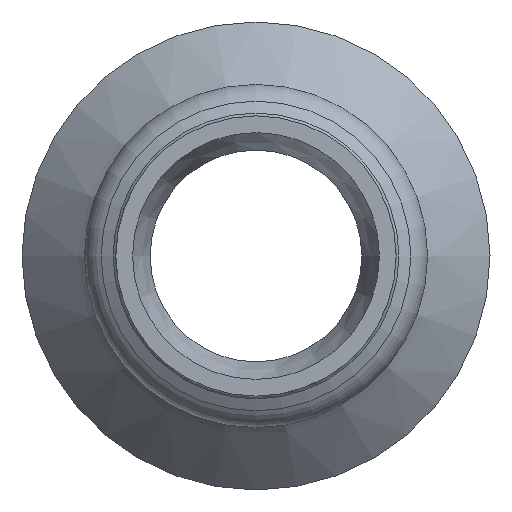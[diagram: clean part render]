
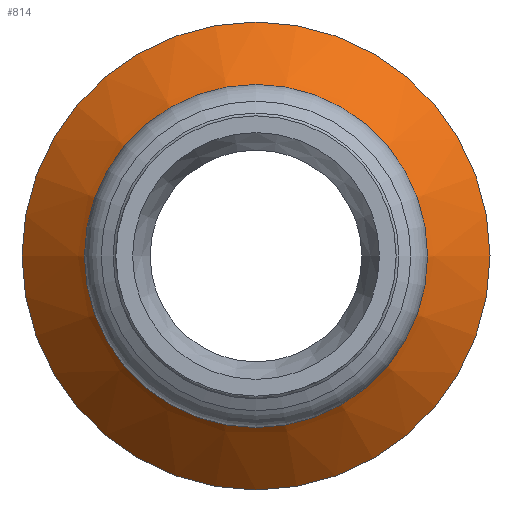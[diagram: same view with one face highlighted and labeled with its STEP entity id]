
A CAD part, left-side view. The second image highlights one B-rep face of the part: STEP entity #814.
In plain terms, the highlighted conical face has half-angle 45 degrees and reference radius 16 mm.
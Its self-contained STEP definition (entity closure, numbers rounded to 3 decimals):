
#780=CARTESIAN_POINT('',(-10.,21.0,0.0));
#781=VERTEX_POINT('',#780);
#782=CARTESIAN_POINT('',(-10.,0.0,0.0));
#783=DIRECTION('',(1.0,0.0,0.0));
#784=DIRECTION('',(0.0,1.0,0.0));
#785=AXIS2_PLACEMENT_3D('',#782,#783,#784);
#786=CIRCLE('',#785,21.0);
#787=EDGE_CURVE('',#781,#781,#786,.T.);
#795=CARTESIAN_POINT('',(-5.,0.0,0.0));
#796=DIRECTION('',(-1.0,0.0,0.0));
#797=DIRECTION('',(0.0,1.0,0.0));
#798=AXIS2_PLACEMENT_3D('',#795,#796,#797);
#799=CONICAL_SURFACE('',#798,16.0,45.);
#800=CARTESIAN_POINT('',(0.,11.0,0.0));
#801=VERTEX_POINT('',#800);
#802=CARTESIAN_POINT('',(0.,0.0,0.0));
#803=DIRECTION('',(1.0,0.0,0.0));
#804=DIRECTION('',(0.0,1.0,0.0));
#805=AXIS2_PLACEMENT_3D('',#802,#803,#804);
#806=CIRCLE('',#805,11.0);
#807=EDGE_CURVE('',#801,#801,#806,.T.);
#808=ORIENTED_EDGE('',*,*,#807,.F.);
#809=EDGE_LOOP('',(#808));
#810=FACE_OUTER_BOUND('',#809,.T.);
#811=ORIENTED_EDGE('',*,*,#787,.T.);
#812=EDGE_LOOP('',(#811));
#813=FACE_BOUND('',#812,.T.);
#814=ADVANCED_FACE('',(#810,#813),#799,.T.);
